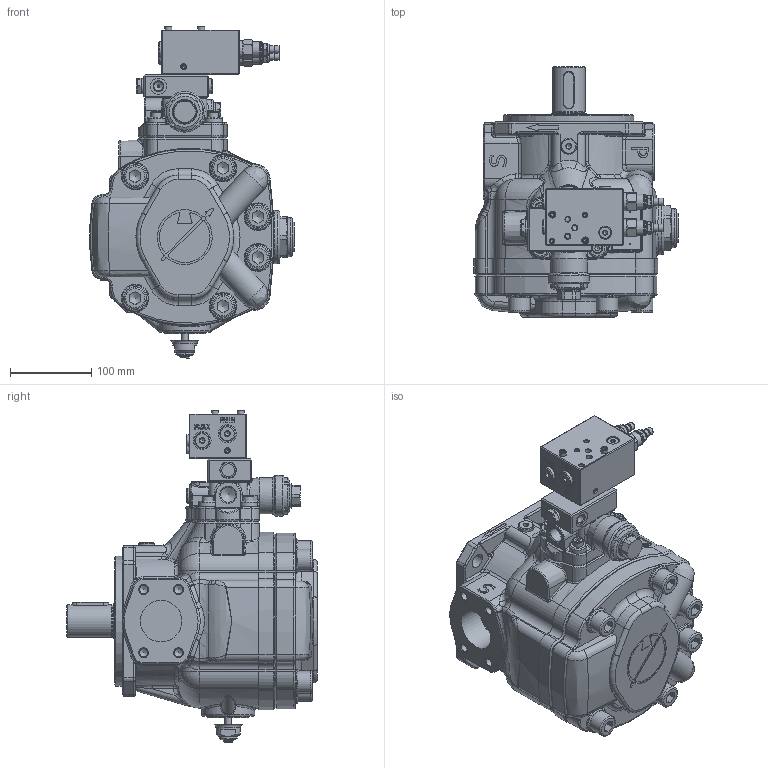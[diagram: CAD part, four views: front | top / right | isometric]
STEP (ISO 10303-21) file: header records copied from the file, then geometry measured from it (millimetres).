
FILE_DESCRIPTION(/* description */ (''),/* implementation_level */ '2;1');
FILE_NAME(/* name */ 'W:\Tecnico\Archivio\Berarma\Dimensioni Pompe\3D Export\Montaggio 3D semplificato\PLP-PHP 3\PHP 3 PCLS004.stp',/* time_stamp */ '2018-10-10T08:41:26+02:00',/* author */ ('marcop'),/* organization */ (''),/* preprocessor_version */ 'ST-DEVELOPER v17',/* originating_system */ 'Autodesk Inventor 2018',/* authorisation */ '');
FILE_SCHEMA (('AUTOMOTIVE_DESIGN { 1 0 10303 214 3 1 1 }'));
Products named in the file (1): PLP-PHP 3_Shrinkwrap_1
Bounding box: 251.18 x 308 x 408.1 mm (x, y, z)
Volume: 7274397.4 mm3; surface area: 597928.5 mm2
Topology: 2 solids, 2 shells, 2683 faces, 6928 edges, 4338 vertices
Faces by surface type: plane 1012, cylinder 634, bspline 468, cone 284, torus 241, sphere 44
Full cylindrical faces by diameter (mm): 0.9 x6, 1.7 x4, 3 x3, 3.15 x1, 4 x5, 4.134 x2, 5 x7, 5.5 x5, 6 x3, 6.5 x8, 7.2 x13, 7.671 x4, 8 x3, 8.376 x4, 8.5 x2, 8.566 x4, 9.347 x4, 9.5 x2, 10.106 x4, 11.445 x5, 12 x6, 13 x4, 13.487 x2, 13.5 x2, 13.767 x4, 14 x4, 14.224 x2, 14.63 x2, 15.5 x2, 16 x3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
Entity records: 101225 total; most frequent: CARTESIAN_POINT 35655, ORIENTED_EDGE 13674, DIRECTION 12553, EDGE_CURVE 6837, AXIS2_PLACEMENT_3D 4904, VERTEX_POINT 4338, EDGE_LOOP 2954, LINE 2745
